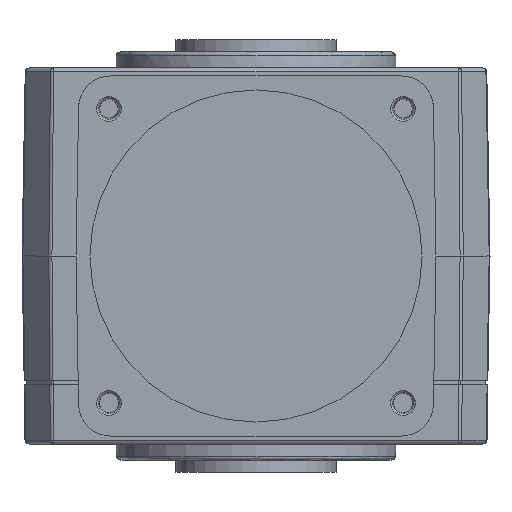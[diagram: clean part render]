
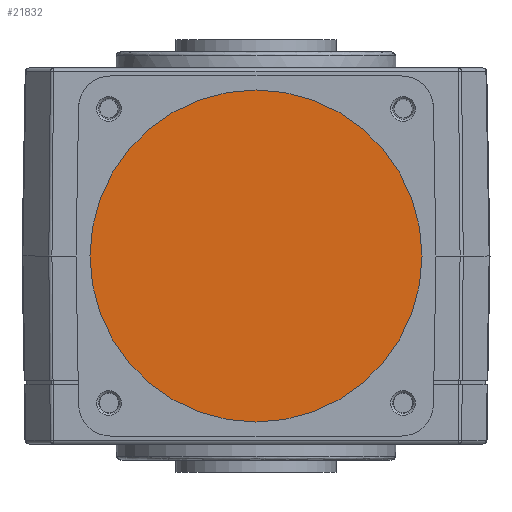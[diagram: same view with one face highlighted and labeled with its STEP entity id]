
A CAD part, front view. The second image highlights one B-rep face of the part: STEP entity #21832.
In plain terms, the highlighted planar face has unit normal (0, -1, 0).
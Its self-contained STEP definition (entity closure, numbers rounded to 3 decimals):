
#4203 = FACE_OUTER_BOUND ( 'NONE', #12632, .T. ) ;
#10143 = ORIENTED_EDGE ( 'NONE', *, *, #14975, .T. ) ;
#12632 = EDGE_LOOP ( 'NONE', ( #10143 ) ) ;
#14975 = EDGE_CURVE ( 'NONE', #17306, #17306, #25333, .T. ) ;
#16947 = AXIS2_PLACEMENT_3D ( 'NONE', #20752, #20753, #20754 ) ;
#17306 = VERTEX_POINT ( 'NONE', #19553 ) ;
#19553 = CARTESIAN_POINT ( 'NONE',  ( 0., -94., -41.5 ) ) ;
#20752 = CARTESIAN_POINT ( 'NONE',  ( 0., -94., 0. ) ) ;
#20753 = DIRECTION ( 'NONE',  ( 0., -1., 0. ) ) ;
#20754 = DIRECTION ( 'NONE',  ( 0., 0., -1. ) ) ;
#21832 = ADVANCED_FACE ( 'NONE', ( #4203 ), #23615, .T. ) ;
#23252 = AXIS2_PLACEMENT_3D ( 'NONE', #23614, #23618, #23619 ) ;
#23614 = CARTESIAN_POINT ( 'NONE',  ( 0., -94., 0. ) ) ;
#23615 = PLANE ( 'NONE',  #23252 ) ;
#23618 = DIRECTION ( 'NONE',  ( 0., -1., 0. ) ) ;
#23619 = DIRECTION ( 'NONE',  ( 0., 0., -1. ) ) ;
#25333 = CIRCLE ( 'NONE', #16947, 41.5 ) ;
